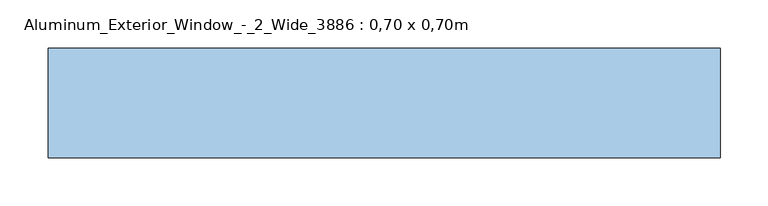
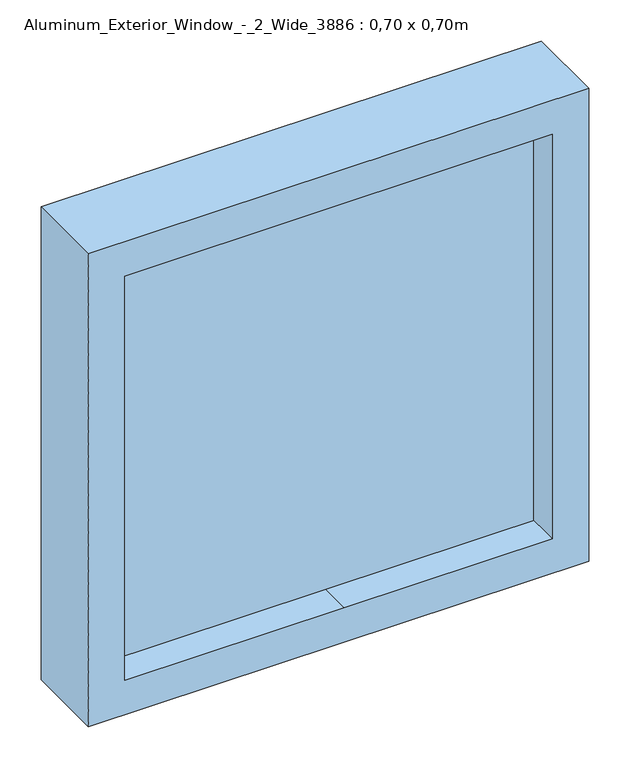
"""IFC4 building model written with IfcOpenShell, lengths in millimetres: window geometry, Aluminum_Exterior_Window_-_2_Wide_3886 : 0,70 x 0,70m."""

from ifc_helpers import new_model, si_unit, frame, origin, place, context, project, spatial, polyline, outline, extrude, source, transform, mapped, element, save


def aluminum_exterior_window_2_wide_3886_0_70_x_0_70m_bfecb7e2(model_context):
    return source(origin(), model_context, "Body", "SweptSolid", [
        extrude(outline(polyline([(1716.0, -1371.6), (1016.0, -1371.6), (1016.0, -671.6), (1716.0, -671.6), (1716.0, -1371.6)]), holes=[polyline([(1665.2, -1047.0), (1665.2, -722.4), (1066.8, -722.4), (1066.8, -1013.8808837), (1066.8, -1320.8), (1665.2, -1320.8), (1665.2, -1047.0)])]), frame((0.0, -38.1424754, 0.0), z_axis=(0.0, 1.0, 0.0), x_axis=(0.0, 0.0, 1.0)), (0.0, 0.0, 1.0), 114.3),
        extrude(outline(polyline([(1665.2, -1047.0), (1665.2, -1320.8), (1066.8, -1320.8), (1066.8, -1020.891469), (1066.8, -722.4), (1665.2, -722.4), (1665.2, -1047.0)])), frame((0.0, 6.3075246, 0.0), z_axis=(0.0, 1.0, 0.0), x_axis=(0.0, 0.0, 1.0)), (0.0, 0.0, 1.0), 25.4),
    ])


if __name__ == "__main__":
    model = new_model("IFC4")
    model_context = context("Model", 3, world=origin())
    ifc_project = project(units=[si_unit("LENGTHUNIT", "METRE", prefix="MILLI")], contexts=[model_context])
    site = spatial("IfcSite", under=ifc_project)
    building = spatial("IfcBuilding", under=site)
    placement = place(None, origin())
    aluminum_exterior_window_2_wide_3886_0_70_x_0_70m_shape = aluminum_exterior_window_2_wide_3886_0_70_x_0_70m_bfecb7e2(model_context)
    element("IfcWindow", 1, ObjectType="Aluminum_Exterior_Window_-_2_Wide_3886 : 0,70 x 0,70m", at=placement, inside=building, context=model_context, shape_type="MappedRepresentation", body=[
        mapped(aluminum_exterior_window_2_wide_3886_0_70_x_0_70m_shape, transform((0.0, 0.0, 0.0), x_axis=(1.0, 0.0, 0.0), y_axis=(0.0, 1.0, 0.0), z_axis=(0.0, 0.0, 1.0))),
    ])
    save(model, "model.ifc")
